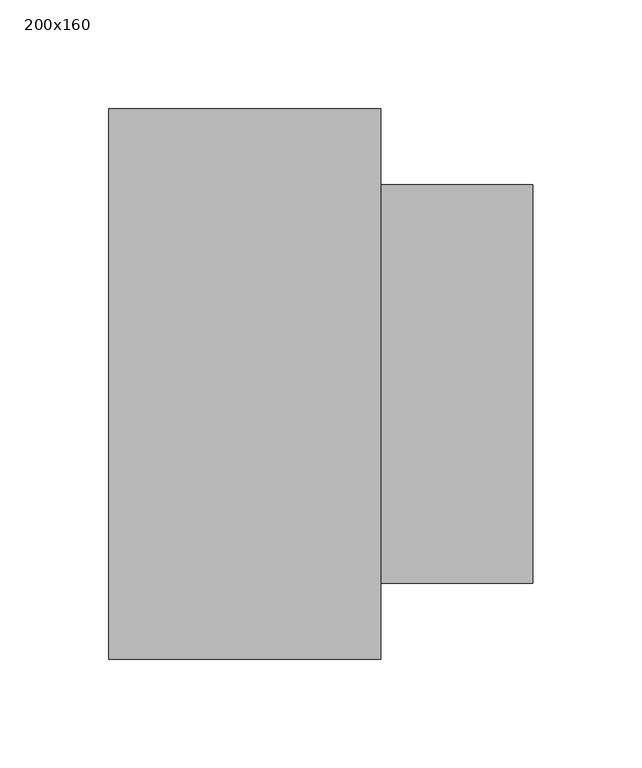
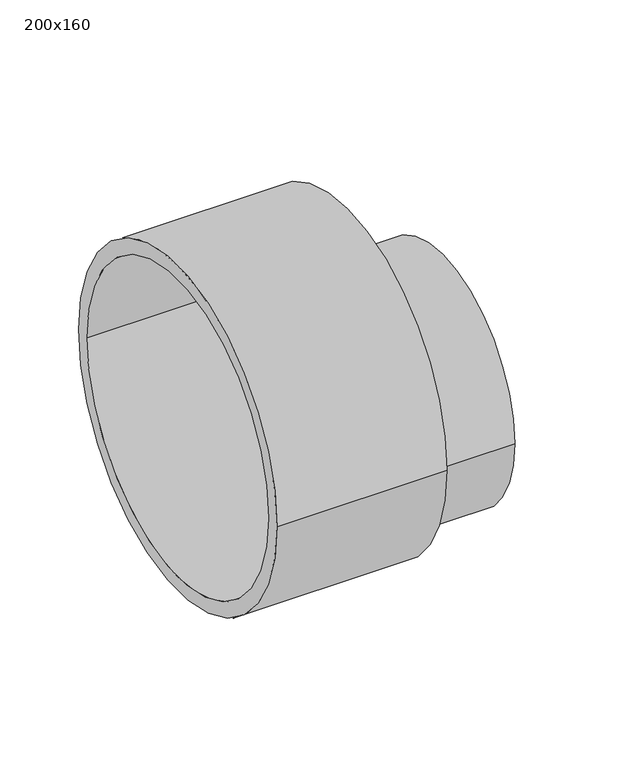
"""IFC4 building model written with IfcOpenShell, lengths in millimetres: pipe fitting geometry, Pipelife - Pragma +ID - Redukcja kanalizacyjna bosa : 200x160."""

import ifcopenshell
import ifcopenshell.guid

model = None  # the IFC model being written
_history = None  # IfcOwnerHistory: only IFC2X3 demands one
_inside = {}  # id of a spatial element -> (the spatial element, [elements in it])
_under = {}  # id of a project, library or spatial element -> (it, [spatial elements below it])
_declared = {}  # id of a project -> (the project, [libraries it declares])
_typed = {}  # id of a type object -> (the type object, [elements of that type])
_made_of = {}  # id of a material, layer set ... -> (it, [elements and type objects made of it])


def new_model(schema):
    """Start an empty IFC model of exactly this schema.

    Asked for "IFC4X3", IfcOpenShell would pick the latest addendum, in which some entities
    have other attributes; the version numbers below select the first issue.
    IFC2X3 requires an IfcOwnerHistory on every rooted entity: one is made here for all.
    """
    global model, _history
    if schema == "IFC4X3":
        model = ifcopenshell.file(schema_version=(4, 3, 0, 0))
    else:
        model = ifcopenshell.file(schema=schema)
    _inside.clear()
    _under.clear()
    _declared.clear()
    _typed.clear()
    _made_of.clear()
    _history = None
    if model.schema == "IFC2X3":
        org = make("IfcOrganization", Name="unknown")
        user = make(
            "IfcPersonAndOrganization",
            ThePerson=make("IfcPerson", FamilyName="unknown"),
            TheOrganization=org,
        )
        app = make(
            "IfcApplication",
            ApplicationDeveloper=org,
            Version="unknown",
            ApplicationFullName="unknown",
            ApplicationIdentifier="unknown",
        )
        _history = make(
            "IfcOwnerHistory",
            OwningUser=user,
            OwningApplication=app,
            ChangeAction="ADDED",
            CreationDate=0,
        )
    return model


def make(cls, **values):
    """One entity of the class cls with the attributes given. An attribute that is None is left unset."""
    return model.create_entity(
        cls, **{name: value for name, value in values.items() if value is not None}
    )


def rooted(cls, **values):
    """An entity with a GlobalId (a new one), such as an element, a storey or a relation."""
    return make(cls, GlobalId=ifcopenshell.guid.new(), OwnerHistory=_history, **values)


def si_unit(unit_type, name, prefix=None):
    """IfcSIUnit, for example si_unit("LENGTHUNIT", "METRE", prefix="MILLI")."""
    return make("IfcSIUnit", UnitType=unit_type, Prefix=prefix, Name=name)


def assignment(units):
    """IfcUnitAssignment: the units of a project."""
    return None if units is None else make("IfcUnitAssignment", Units=units)


def point(xyz):
    """IfcCartesianPoint."""
    return None if xyz is None else make("IfcCartesianPoint", Coordinates=xyz)


def direction(xyz):
    """IfcDirection."""
    return None if xyz is None else make("IfcDirection", DirectionRatios=xyz)


def frame(location, z_axis=None, x_axis=None):
    """IfcAxis2Placement3D, a coordinate frame: its origin and axes. An axis left out is left unset."""
    return make(
        "IfcAxis2Placement3D",
        Location=point(location),
        Axis=direction(z_axis),
        RefDirection=direction(x_axis),
    )


def origin():
    """The frame at (0, 0, 0) with its axes left unset."""
    return frame((0.0, 0.0, 0.0))


def place(relative_to, where):
    """IfcLocalPlacement: puts the frame where relative to a parent placement (None: the world)."""
    return make(
        "IfcLocalPlacement", PlacementRelTo=relative_to, RelativePlacement=where
    )


def context(
    kind, dimensions, precision=None, world=None, true_north=None, identifier=None
):
    """IfcGeometricRepresentationContext, for example the 3D "Model" context."""
    return make(
        "IfcGeometricRepresentationContext",
        ContextIdentifier=identifier,
        ContextType=kind,
        CoordinateSpaceDimension=dimensions,
        Precision=precision,
        WorldCoordinateSystem=world,
        TrueNorth=true_north,
    )


def project(units=None, contexts=None):
    """IfcProject with its units and contexts."""
    return rooted(
        "IfcProject",
        Name="project",
        RepresentationContexts=contexts,
        UnitsInContext=assignment(units),
    )


def spatial(cls, under=None, at=None, **own):
    """A site, building, storey or space (cls), placed at a placement, below another one or the project."""
    s = rooted(cls, ObjectPlacement=at, **own)
    if under is not None:
        _under.setdefault(under.id(), (under, []))[1].append(s)
    return s


def polyline(points):
    """IfcPolyline through the points."""
    return make("IfcPolyline", Points=[point(p) for p in points])


def circle_curve(where, radius):
    """IfcCircle in the frame where."""
    return make("IfcCircle", Position=where, Radius=radius)


def shape(context_of_items, identifier, shape_type, items):
    """IfcShapeRepresentation: the items that make up one representation, for example the "Body"."""
    return make(
        "IfcShapeRepresentation",
        ContextOfItems=context_of_items,
        RepresentationIdentifier=identifier,
        RepresentationType=shape_type,
        Items=items,
    )


def source(mapping_origin, context_of_items, identifier, shape_type, items):
    """IfcRepresentationMap: a shape defined once, which mapped items show again and again."""
    return make(
        "IfcRepresentationMap",
        MappingOrigin=mapping_origin,
        MappedRepresentation=shape(context_of_items, identifier, shape_type, items),
    )


def transform(
    local_origin,
    x_axis=None,
    y_axis=None,
    z_axis=None,
    scale=None,
    scale2=None,
    scale3=None,
    uniform=True,
):
    """IfcCartesianTransformationOperator3D, or its non-uniform kind. x_axis, y_axis, z_axis: its Axis1, 2, 3."""
    if uniform:
        return make(
            "IfcCartesianTransformationOperator3D",
            Axis1=direction(x_axis),
            Axis2=direction(y_axis),
            LocalOrigin=point(local_origin),
            Scale=scale,
            Axis3=direction(z_axis),
        )
    return make(
        "IfcCartesianTransformationOperator3DnonUniform",
        Axis1=direction(x_axis),
        Axis2=direction(y_axis),
        LocalOrigin=point(local_origin),
        Scale=scale,
        Axis3=direction(z_axis),
        Scale2=scale2,
        Scale3=scale3,
    )


def mapped(mapping_source, mapping_target):
    """IfcMappedItem: shows the shape of a source again, moved by a transform."""
    return make(
        "IfcMappedItem", MappingSource=mapping_source, MappingTarget=mapping_target
    )


def made_of(thing, what):
    """Note that an element or type object is made of a material, layer set ...; save() writes the relation."""
    if what is not None:
        _made_of.setdefault(what.id(), (what, []))[1].append(thing)
    return thing


def element(
    cls,
    number,
    at=None,
    inside=None,
    cuts=None,
    type_object=None,
    material=None,
    context=None,
    identifier="Body",
    shape_type=None,
    held_by="IfcProductDefinitionShape",
    body=None,
    shapes=None,
    **own,
):
    """One element of the class cls, such as IfcWall. Its Tag is "e" and its number.

    at: its placement. inside: the storey or other place that contains it. cuts: it is an
    opening in that element (IfcRelVoidsElement). A single representation is given by context,
    identifier, shape_type and body (its items); several are given by shapes. held_by: the class
    of the entity that holds the representations. save() writes the other relations.
    """
    e = rooted(cls, Tag="e%d" % number, ObjectPlacement=at, **own)
    if body is not None:
        shapes = [shape(context, identifier, shape_type, body)]
    if shapes is not None:
        e.Representation = make(held_by, Representations=shapes)
    if inside is not None:
        _inside.setdefault(inside.id(), (inside, []))[1].append(e)
    if cuts is not None:
        rooted(
            "IfcRelVoidsElement", RelatingBuildingElement=cuts, RelatedOpeningElement=e
        )
    if type_object is not None:
        _typed.setdefault(type_object.id(), (type_object, []))[1].append(e)
    return made_of(e, material)


def aggregate(whole, parts):
    """IfcRelAggregates: a whole, such as a stair, and the parts it consists of."""
    return rooted("IfcRelAggregates", RelatingObject=whole, RelatedObjects=parts)


def save(model, path):
    """Write the relations noted so far, then the file.

    IfcRelAggregates (storeys below a building ...), IfcRelContainedInSpatialStructure (elements
    in a storey), IfcRelDefinesByType, IfcRelAssociatesMaterial and IfcRelDeclares: one each for
    every whole, place, type object, material and project.
    """
    for whole, parts in _under.values():
        aggregate(whole, parts)
    for where, things in _inside.values():
        rooted(
            "IfcRelContainedInSpatialStructure",
            RelatedElements=things,
            RelatingStructure=where,
        )
    for kind, things in _typed.values():
        rooted("IfcRelDefinesByType", RelatedObjects=things, RelatingType=kind)
    for what, things in _made_of.values():
        rooted("IfcRelAssociatesMaterial", RelatedObjects=things, RelatingMaterial=what)
    for by, libraries in _declared.values():
        rooted("IfcRelDeclares", RelatingContext=by, RelatedDefinitions=libraries)
    model.write(path)


def plane_surface(at):
    """IfcPlane: the flat surface through the origin of the frame at, square to its z axis."""
    return make("IfcPlane", Position=at)


def cylinder_surface(at, radius):
    """IfcCylindricalSurface: all points at the distance radius from the z axis of the frame at."""
    return make("IfcCylindricalSurface", Position=at, Radius=radius)


def revolved_surface(curve, axis_point, axis_direction):
    """IfcSurfaceOfRevolution: the curve turned about the line through axis_point along axis_direction."""
    return make(
        "IfcSurfaceOfRevolution",
        SweptCurve=make("IfcArbitraryOpenProfileDef", ProfileType="CURVE", Curve=curve),
        AxisPosition=make("IfcAxis1Placement", Location=point(axis_point), Axis=direction(axis_direction)),
    )


def advanced_brep(points, edges, surfaces, faces):
    """IfcAdvancedBrep: a solid bounded by faces that lie on surfaces and meet in shared edges.

    An edge is (start, end): straight between two places in points (the first is 0);
    or (start, end, curve); or (start, end, curve, False) where it runs against its curve.
    A face is (place in surfaces, loops), or (place, loops, False) where it looks against
    its surface's normal. A loop lists edges by number (the first is 1), with a minus sign
    where the edge is run from its end to its start. The first loop is the outer one.
    """
    corners = [point(p) for p in points]
    vertices = [make("IfcVertexPoint", VertexGeometry=c) for c in corners]
    made = []
    for start, end, *more in edges:
        made.append(
            make(
                "IfcEdgeCurve",
                EdgeStart=vertices[start],
                EdgeEnd=vertices[end],
                EdgeGeometry=more[0] if more else make("IfcPolyline", Points=[corners[start], corners[end]]),
                SameSense=more[1] if len(more) > 1 else True,
            )
        )
    hull = []
    for where, loops, *sense in faces:
        bounds = []
        for j, loop in enumerate(loops):
            ring = [make("IfcOrientedEdge", EdgeElement=made[abs(k) - 1], Orientation=k > 0) for k in loop]
            bounds.append(
                make(
                    "IfcFaceOuterBound" if j == 0 else "IfcFaceBound",
                    Bound=make("IfcEdgeLoop", EdgeList=ring),
                    Orientation=True,
                )
            )
        hull.append(make("IfcAdvancedFace", Bounds=bounds, FaceSurface=surfaces[where], SameSense=sense[0] if sense else True))
    return make("IfcAdvancedBrep", Outer=make("IfcClosedShell", CfsFaces=hull))


def pipe_fitting_200x160_b7d51f9c(model_context):
    return source(origin(), model_context, "Body", "AdvancedBrep", [
        advanced_brep(
        [(-122.0, -126.5, 0.0), (-122.0, 126.5, 0.0), (-122.0, 115.5, 0.0), (-122.0, -115.5, 0.0), (3.0, -126.5, 0.0), (3.0, 126.5, 0.0), (3.0, -91.5, -25.0), (3.0, 91.5, -25.0), (-1.0, -115.5, 0.0), (-1.0, 115.5, 0.0), (-1.0, 80.5, -25.0), (-1.0, -80.5, -25.0), (73.0, -80.5, -25.0), (73.0, 80.5, -25.0), (73.0, -91.5, -25.0), (73.0, 91.5, -25.0)],
        [
            (0, 1, circle_curve(frame((-122.0, 0.0, 0.0), z_axis=(-1.0, 0.0, 0.0), x_axis=(0.0, 1.0, 0.0)), 126.5)),
            (1, 0, circle_curve(frame((-122.0, 0.0, 0.0), z_axis=(-1.0, 0.0, 0.0), x_axis=(0.0, 1.0, 0.0)), 126.5)),
            (2, 3, circle_curve(frame((-122.0, 0.0, 0.0), z_axis=(1.0, 0.0, 0.0), x_axis=(0.0, 1.0, 0.0)), 115.5)),
            (3, 2, circle_curve(frame((-122.0, 0.0, 0.0), z_axis=(1.0, 0.0, 0.0), x_axis=(0.0, 1.0, 0.0)), 115.5)),
            (4, 5, circle_curve(frame((3.0, 0.0, 0.0), z_axis=(1.0, 0.0, 0.0), x_axis=(0.0, 1.0, 0.0)), 126.5)),
            (5, 4, circle_curve(frame((3.0, 0.0, 0.0), z_axis=(1.0, 0.0, 0.0), x_axis=(0.0, 1.0, 0.0)), 126.5)),
            (6, 7, circle_curve(frame((3.0, 0.0, -25.0), z_axis=(-1.0, 0.0, 0.0), x_axis=(0.0, 1.0, 0.0)), 91.5)),
            (7, 6, circle_curve(frame((3.0, 0.0, -25.0), z_axis=(-1.0, 0.0, 0.0), x_axis=(0.0, 1.0, 0.0)), 91.5)),
            (0, 4),
            (5, 1),
            (8, 9, circle_curve(frame((-1.0, 0.0, 0.0), z_axis=(-1.0, 0.0, 0.0), x_axis=(0.0, 1.0, 0.0)), 115.5)),
            (9, 8, circle_curve(frame((-1.0, 0.0, 0.0), z_axis=(-1.0, 0.0, 0.0), x_axis=(0.0, 1.0, 0.0)), 115.5)),
            (10, 11, circle_curve(frame((-1.0, 0.0, -25.0), z_axis=(1.0, 0.0, 0.0), x_axis=(0.0, 1.0, 0.0)), 80.5)),
            (11, 10, circle_curve(frame((-1.0, 0.0, -25.0), z_axis=(1.0, 0.0, 0.0), x_axis=(0.0, 1.0, 0.0)), 80.5)),
            (8, 3),
            (2, 9),
            (12, 11),
            (10, 13),
            (13, 12, circle_curve(frame((73.0, 0.0, -25.0), z_axis=(1.0, 0.0, 0.0), x_axis=(0.0, 1.0, 0.0)), 80.5)),
            (12, 13, circle_curve(frame((73.0, 0.0, -25.0), z_axis=(1.0, 0.0, 0.0), x_axis=(0.0, 1.0, 0.0)), 80.5)),
            (14, 15, circle_curve(frame((73.0, 0.0, -25.0), z_axis=(1.0, 0.0, 0.0), x_axis=(0.0, 1.0, 0.0)), 91.5)),
            (15, 14, circle_curve(frame((73.0, 0.0, -25.0), z_axis=(1.0, 0.0, 0.0), x_axis=(0.0, 1.0, 0.0)), 91.5)),
            (15, 7),
            (6, 14),
        ],
        [
            plane_surface(frame((-122.0, 0.0, 0.0), z_axis=(-1.0, 0.0, 0.0), x_axis=(0.0, 0.0, 1.0))),
            plane_surface(frame((3.0, 0.0, 0.0), z_axis=(1.0, 0.0, 0.0), x_axis=(0.0, 0.0, 1.0))),
            cylinder_surface(frame((-122.0, 0.0, 0.0), z_axis=(-1.0, 0.0, 0.0), x_axis=(0.0, 1.0, 0.0)), 126.5),
            plane_surface(frame((-1.0, 0.0, 0.0), z_axis=(-1.0, 0.0, 0.0), x_axis=(0.0, 0.0, 1.0))),
            revolved_surface(polyline([(-122.0, 115.5, 0.0), (-1.0, 115.5, 0.0)]), (-122.0, 0.0, 0.0), (-1.0, 0.0, 0.0)),
            revolved_surface(polyline([(-1.0, 80.5, -25.0), (73.0, 80.5, -25.0)]), (-1.0, 0.0, -25.0), (-1.0, 0.0, 0.0)),
            plane_surface(frame((73.0, 0.0, -25.0), z_axis=(1.0, 0.0, 0.0), x_axis=(0.0, 0.0, 1.0))),
            cylinder_surface(frame((3.0, 0.0, -25.0), z_axis=(-1.0, 0.0, 0.0), x_axis=(0.0, 1.0, 0.0)), 91.5),
        ],
        [
            (0, [[1, 2], [3, 4]]),
            (1, [[5, 6], [7, 8]]),
            (2, [[-1, 9, -6, 10]]),
            (2, [[-2, -10, -5, -9]]),
            (3, [[11, 12], [13, 14]]),
            (4, [[-11, 15, -3, 16]]),
            (4, [[-12, -16, -4, -15]]),
            (5, [[17, -13, 18, 19]]),
            (5, [[-17, 20, -18, -14]]),
            (6, [[21, 22], [-19, -20]]),
            (7, [[-22, 23, -7, 24]]),
            (7, [[-21, -24, -8, -23]]),
        ],
    ),
    ])


if __name__ == "__main__":
    model = new_model("IFC4")
    model_context = context("Model", 3, world=origin())
    ifc_project = project(units=[si_unit("LENGTHUNIT", "METRE", prefix="MILLI")], contexts=[model_context])
    site = spatial("IfcSite", under=ifc_project)
    building = spatial("IfcBuilding", under=site)
    placement = place(None, origin())
    pipe_fitting_200x160_shape = pipe_fitting_200x160_b7d51f9c(model_context)
    element("IfcPipeFitting", 1, ObjectType="Pipelife - Pragma +ID - Redukcja kanalizacyjna bosa : 200x160", at=placement, inside=building, context=model_context, shape_type="MappedRepresentation", body=[
        mapped(pipe_fitting_200x160_shape, transform((0.0, 0.0, 0.0), x_axis=(1.0, 0.0, 0.0), y_axis=(0.0, 1.0, 0.0), z_axis=(0.0, 0.0, 1.0))),
    ])
    save(model, "model.ifc")
